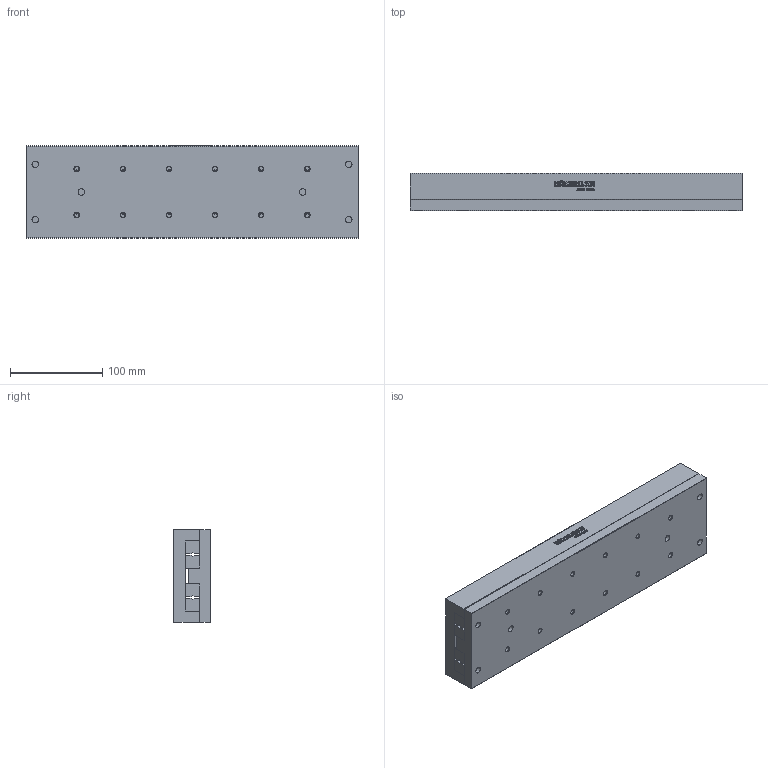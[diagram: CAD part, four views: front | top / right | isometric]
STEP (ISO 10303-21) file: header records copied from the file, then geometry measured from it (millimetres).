
FILE_DESCRIPTION(/* description */ ('STEP AP214'),/* implementation_level */ '2;1');
FILE_NAME(/* name */ 'NKL 6-360(0)',/* time_stamp */ '2025-04-24T11:41:26+02:00',/* author */ ('License CC BY-ND 4.0'),/* organization */ ('CADENAS'),/* preprocessor_version */ 'ST-DEVELOPER v19.3',/* originating_system */ 'PARTsolutions',/* authorisation */ ' ');
FILE_SCHEMA (('AUTOMOTIVE_DESIGN {1 0 10303 214 3 1 1}'));
Length unit declared in the file: millimetre
Products named in the file (3): NKL 6-360(0); NKL 6-360_1; NKL 6-360_2
Assembly tree (2 placements, depth 2):
  NKL 6-360(0)
    NKL 6-360_1
    NKL 6-360_2
Bounding box: 360 x 40 x 100 mm (x, y, z)
Volume: 1375710.3 mm3; surface area: 251842.9 mm2
Topology: 2 solids, 2 shells, 675 faces, 1876 edges, 1212 vertices
Faces by surface type: cylinder 328, plane 299, cone 48
Full cylindrical faces by diameter (mm): 4.917 x24, 7 x6, 15 x6
Entity records: 21229 total; most frequent: DIRECTION 3852, CARTESIAN_POINT 3626, ORIENTED_EDGE 3528, EDGE_CURVE 1764, AXIS2_PLACEMENT_3D 1410, VERTEX_POINT 1184, LINE 1032, VECTOR 1032
